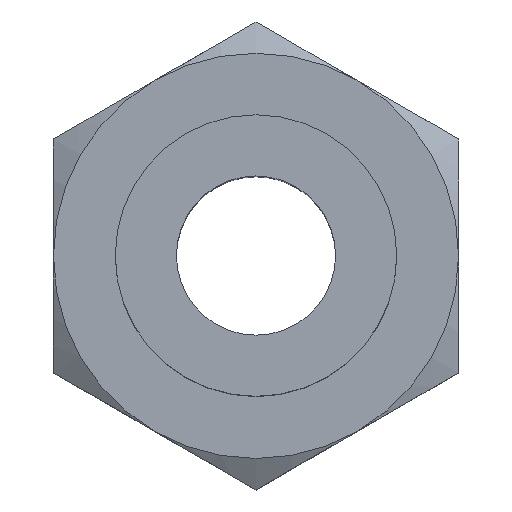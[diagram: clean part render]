
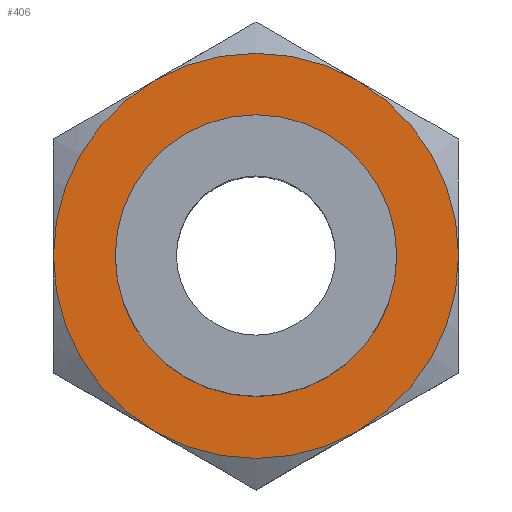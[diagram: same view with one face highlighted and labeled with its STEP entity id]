
A CAD part, top view. The second image highlights one B-rep face of the part: STEP entity #406.
In plain terms, the highlighted planar face has unit normal (0, 0, 1).
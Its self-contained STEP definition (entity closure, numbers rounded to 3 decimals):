
#15=FACE_BOUND('',#106,.T.);
#19=PLANE('',#470);
#79=FACE_OUTER_BOUND('',#105,.T.);
#105=EDGE_LOOP('',(#305,#306,#307,#308,#309,#310));
#106=EDGE_LOOP('',(#311,#312));
#149=CIRCLE('',#459,7.);
#150=CIRCLE('',#461,7.);
#151=CIRCLE('',#463,7.);
#152=CIRCLE('',#465,7.);
#153=CIRCLE('',#467,7.);
#154=CIRCLE('',#469,7.);
#155=CIRCLE('',#471,4.864);
#156=CIRCLE('',#472,4.864);
#179=VERTEX_POINT('',#673);
#180=VERTEX_POINT('',#677);
#181=VERTEX_POINT('',#683);
#183=VERTEX_POINT('',#693);
#186=VERTEX_POINT('',#704);
#187=VERTEX_POINT('',#713);
#190=VERTEX_POINT('',#732);
#191=VERTEX_POINT('',#733);
#223=EDGE_CURVE('',#180,#179,#149,.T.);
#225=EDGE_CURVE('',#181,#180,#150,.T.);
#228=EDGE_CURVE('',#183,#181,#151,.T.);
#232=EDGE_CURVE('',#179,#186,#152,.T.);
#234=EDGE_CURVE('',#187,#183,#153,.T.);
#238=EDGE_CURVE('',#186,#187,#154,.T.);
#239=EDGE_CURVE('',#190,#191,#155,.T.);
#240=EDGE_CURVE('',#191,#190,#156,.T.);
#305=ORIENTED_EDGE('',*,*,#232,.F.);
#306=ORIENTED_EDGE('',*,*,#223,.F.);
#307=ORIENTED_EDGE('',*,*,#225,.F.);
#308=ORIENTED_EDGE('',*,*,#228,.F.);
#309=ORIENTED_EDGE('',*,*,#234,.F.);
#310=ORIENTED_EDGE('',*,*,#238,.F.);
#311=ORIENTED_EDGE('',*,*,#239,.T.);
#312=ORIENTED_EDGE('',*,*,#240,.T.);
#406=ADVANCED_FACE('',(#79,#15),#19,.F.);
#459=AXIS2_PLACEMENT_3D('',#681,#534,#535);
#461=AXIS2_PLACEMENT_3D('',#688,#538,#539);
#463=AXIS2_PLACEMENT_3D('',#698,#542,#543);
#465=AXIS2_PLACEMENT_3D('',#711,#546,#547);
#467=AXIS2_PLACEMENT_3D('',#718,#550,#551);
#469=AXIS2_PLACEMENT_3D('',#730,#554,#555);
#470=AXIS2_PLACEMENT_3D('',#731,#556,#557);
#471=AXIS2_PLACEMENT_3D('',#734,#558,#559);
#472=AXIS2_PLACEMENT_3D('',#735,#560,#561);
#534=DIRECTION('center_axis',(0.,0.,-1.));
#535=DIRECTION('ref_axis',(1.,0.,0.));
#538=DIRECTION('center_axis',(0.,0.,-1.));
#539=DIRECTION('ref_axis',(1.,0.,0.));
#542=DIRECTION('center_axis',(0.,0.,-1.));
#543=DIRECTION('ref_axis',(1.,0.,0.));
#546=DIRECTION('center_axis',(0.,0.,-1.));
#547=DIRECTION('ref_axis',(1.,0.,0.));
#550=DIRECTION('center_axis',(0.,0.,-1.));
#551=DIRECTION('ref_axis',(1.,0.,0.));
#554=DIRECTION('center_axis',(0.,0.,-1.));
#555=DIRECTION('ref_axis',(1.,0.,0.));
#556=DIRECTION('center_axis',(0.,0.,-1.));
#557=DIRECTION('ref_axis',(-1.,0.,0.));
#558=DIRECTION('center_axis',(0.,0.,-1.));
#559=DIRECTION('ref_axis',(1.,0.,0.));
#560=DIRECTION('center_axis',(0.,0.,-1.));
#561=DIRECTION('ref_axis',(1.,0.,0.));
#673=CARTESIAN_POINT('',(3.5,-6.062,10.5));
#677=CARTESIAN_POINT('',(7.,0.,10.5));
#681=CARTESIAN_POINT('Origin',(0.,0.,10.5));
#683=CARTESIAN_POINT('',(3.5,6.062,10.5));
#688=CARTESIAN_POINT('Origin',(0.,0.,10.5));
#693=CARTESIAN_POINT('',(-3.5,6.062,10.5));
#698=CARTESIAN_POINT('Origin',(0.,0.,10.5));
#704=CARTESIAN_POINT('',(-3.5,-6.062,10.5));
#711=CARTESIAN_POINT('Origin',(0.,0.,10.5));
#713=CARTESIAN_POINT('',(-7.,0.,10.5));
#718=CARTESIAN_POINT('Origin',(0.,0.,10.5));
#730=CARTESIAN_POINT('Origin',(0.,0.,10.5));
#731=CARTESIAN_POINT('Origin',(0.,-4.864,10.5));
#732=CARTESIAN_POINT('',(0.,-4.864,10.5));
#733=CARTESIAN_POINT('',(0.,4.864,10.5));
#734=CARTESIAN_POINT('Origin',(0.,0.,10.5));
#735=CARTESIAN_POINT('Origin',(0.,0.,10.5));
